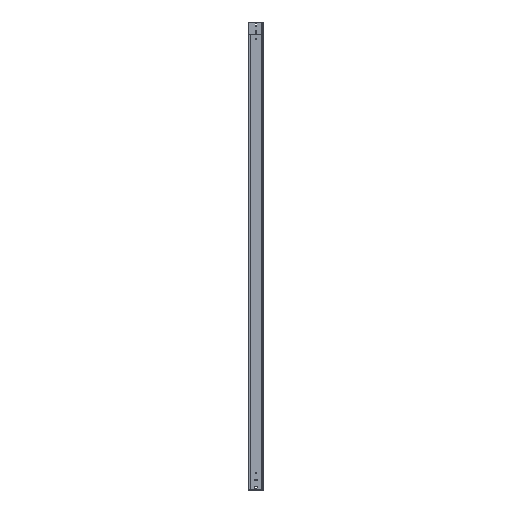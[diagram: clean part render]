
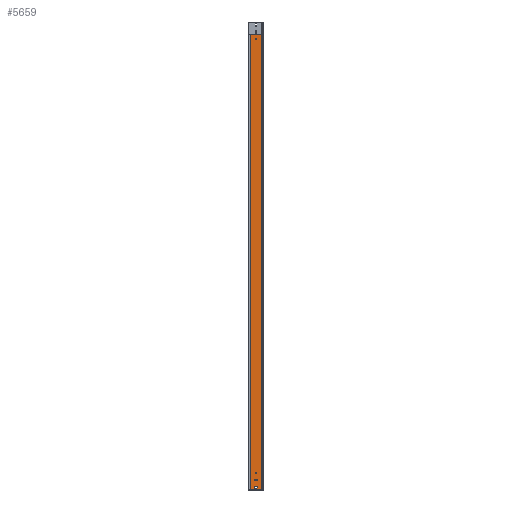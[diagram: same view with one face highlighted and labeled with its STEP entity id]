
A CAD part, left-side view. The second image highlights one B-rep face of the part: STEP entity #5659.
In plain terms, the highlighted planar face has unit normal (-1, 0, 0).
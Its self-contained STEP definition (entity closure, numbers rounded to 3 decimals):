
#16 = EDGE_LOOP ( 'NONE', ( #5150, #5496 ) ) ;
#128 = CARTESIAN_POINT ( 'NONE',  ( 0., 54., 2857. ) ) ;
#167 = DIRECTION ( 'NONE',  ( 0., 0., 1. ) ) ;
#287 = AXIS2_PLACEMENT_3D ( 'NONE', #3341, #6695, #4813 ) ;
#404 = CARTESIAN_POINT ( 'NONE',  ( 0., 64., 0. ) ) ;
#442 = CARTESIAN_POINT ( 'NONE',  ( 0., 7.555, 0. ) ) ;
#518 = VERTEX_POINT ( 'NONE', #1847 ) ;
#561 = VECTOR ( 'NONE', #7122, 1000. ) ;
#568 = CARTESIAN_POINT ( 'NONE',  ( 0., 0.5, 0. ) ) ;
#597 = LINE ( 'NONE', #1665, #561 ) ;
#747 = DIRECTION ( 'NONE',  ( 0., 1., 0. ) ) ;
#813 = FACE_BOUND ( 'NONE', #1822, .T. ) ;
#940 = ORIENTED_EDGE ( 'NONE', *, *, #2950, .F. ) ;
#1000 = VERTEX_POINT ( 'NONE', #5728 ) ;
#1124 = DIRECTION ( 'NONE',  ( 0., 0., -1. ) ) ;
#1238 = ORIENTED_EDGE ( 'NONE', *, *, #7709, .F. ) ;
#1288 = EDGE_CURVE ( 'NONE', #6171, #3214, #5157, .T. ) ;
#1311 = CARTESIAN_POINT ( 'NONE',  ( 0., 48.5, 34.5 ) ) ;
#1319 = CIRCLE ( 'NONE', #6129, 4.5 ) ;
#1489 = FACE_BOUND ( 'NONE', #8136, .T. ) ;
#1490 = CIRCLE ( 'NONE', #7940, 4.5 ) ;
#1589 = CARTESIAN_POINT ( 'NONE',  ( 0., 48.5, 25.5 ) ) ;
#1608 = EDGE_CURVE ( 'NONE', #8118, #6408, #5695, .T. ) ;
#1626 = ORIENTED_EDGE ( 'NONE', *, *, #2258, .F. ) ;
#1649 = DIRECTION ( 'NONE',  ( 0., 0., 1. ) ) ;
#1665 = CARTESIAN_POINT ( 'NONE',  ( 0., 54., 2861.5 ) ) ;
#1760 = DIRECTION ( 'NONE',  ( -1., 0., 0. ) ) ;
#1822 = EDGE_LOOP ( 'NONE', ( #3386, #5687 ) ) ;
#1847 = CARTESIAN_POINT ( 'NONE',  ( 0., 54., 2861.5 ) ) ;
#1870 = VERTEX_POINT ( 'NONE', #7285 ) ;
#1875 = EDGE_CURVE ( 'NONE', #3250, #6045, #2669, .T. ) ;
#1884 = ORIENTED_EDGE ( 'NONE', *, *, #8405, .F. ) ;
#2027 = DIRECTION ( 'NONE',  ( 0., 0., -1. ) ) ;
#2038 = DIRECTION ( 'NONE',  ( -1., 0., 0. ) ) ;
#2196 = VERTEX_POINT ( 'NONE', #1589 ) ;
#2199 = CIRCLE ( 'NONE', #7010, 4.5 ) ;
#2258 = EDGE_CURVE ( 'NONE', #3561, #6045, #7872, .T. ) ;
#2278 = CARTESIAN_POINT ( 'NONE',  ( 0., 78.111, 0. ) ) ;
#2311 = ORIENTED_EDGE ( 'NONE', *, *, #3050, .F. ) ;
#2362 = ORIENTED_EDGE ( 'NONE', *, *, #4748, .F. ) ;
#2449 = DIRECTION ( 'NONE',  ( -1., 0., 0. ) ) ;
#2545 = VECTOR ( 'NONE', #7255, 1000. ) ;
#2669 = LINE ( 'NONE', #3842, #8031 ) ;
#2700 = DIRECTION ( 'NONE',  ( 0., -1., 0. ) ) ;
#2733 = DIRECTION ( 'NONE',  ( -1., 0., 0. ) ) ;
#2760 = DIRECTION ( 'NONE',  ( 0., 0., -1. ) ) ;
#2811 = FACE_BOUND ( 'NONE', #5099, .T. ) ;
#2817 = CIRCLE ( 'NONE', #5585, 4.5 ) ;
#2833 = CARTESIAN_POINT ( 'NONE',  ( 0., 85.166, 2920. ) ) ;
#2935 = EDGE_CURVE ( 'NONE', #2196, #6107, #2817, .T. ) ;
#2950 = EDGE_CURVE ( 'NONE', #518, #4281, #1319, .T. ) ;
#2966 = VECTOR ( 'NONE', #2760, 1000. ) ;
#2996 = CARTESIAN_POINT ( 'NONE',  ( 0., 43., 2857. ) ) ;
#3010 = CARTESIAN_POINT ( 'NONE',  ( 0., 21.666, 0. ) ) ;
#3025 = DIRECTION ( 'NONE',  ( -1., 0., 0. ) ) ;
#3050 = EDGE_CURVE ( 'NONE', #6706, #7487, #4485, .T. ) ;
#3171 = EDGE_LOOP ( 'NONE', ( #1626, #1238, #6906, #5192 ) ) ;
#3214 = VERTEX_POINT ( 'NONE', #5947 ) ;
#3250 = VERTEX_POINT ( 'NONE', #2833 ) ;
#3341 = CARTESIAN_POINT ( 'NONE',  ( 0., 0., 2920. ) ) ;
#3385 = FACE_BOUND ( 'NONE', #16, .T. ) ;
#3386 = ORIENTED_EDGE ( 'NONE', *, *, #2935, .F. ) ;
#3561 = VERTEX_POINT ( 'NONE', #568 ) ;
#3782 = AXIS2_PLACEMENT_3D ( 'NONE', #4442, #2449, #1124 ) ;
#3789 = DIRECTION ( 'NONE',  ( 0., 0., 1. ) ) ;
#3842 = CARTESIAN_POINT ( 'NONE',  ( 0., 85.166, 2920. ) ) ;
#3944 = CARTESIAN_POINT ( 'NONE',  ( 0., 54., 2852.5 ) ) ;
#4078 = PLANE ( 'NONE',  #287 ) ;
#4181 = AXIS2_PLACEMENT_3D ( 'NONE', #5413, #6217, #167 ) ;
#4206 = AXIS2_PLACEMENT_3D ( 'NONE', #6374, #7103, #7147 ) ;
#4281 = VERTEX_POINT ( 'NONE', #3944 ) ;
#4361 = CARTESIAN_POINT ( 'NONE',  ( 0., 42.832, 0. ) ) ;
#4377 = CARTESIAN_POINT ( 'NONE',  ( 0., 85.166, 0. ) ) ;
#4442 = CARTESIAN_POINT ( 'NONE',  ( 0., 54., 2903. ) ) ;
#4470 = VECTOR ( 'NONE', #2700, 1000. ) ;
#4485 = CIRCLE ( 'NONE', #3782, 4.5 ) ;
#4583 = DIRECTION ( 'NONE',  ( 0., 1., 0. ) ) ;
#4716 = CARTESIAN_POINT ( 'NONE',  ( 0., 54., 2907.5 ) ) ;
#4722 = DIRECTION ( 'NONE',  ( 0., 0., -1. ) ) ;
#4728 = LINE ( 'NONE', #6698, #4470 ) ;
#4748 = EDGE_CURVE ( 'NONE', #1000, #6706, #6001, .T. ) ;
#4813 = DIRECTION ( 'NONE',  ( 0., 0., 1. ) ) ;
#4862 = DIRECTION ( 'NONE',  ( 0., 0., 1. ) ) ;
#4992 = CARTESIAN_POINT ( 'NONE',  ( 0., 0.5, 2920. ) ) ;
#5099 = EDGE_LOOP ( 'NONE', ( #940, #8243, #5977, #1884 ) ) ;
#5150 = ORIENTED_EDGE ( 'NONE', *, *, #1608, .F. ) ;
#5157 = CIRCLE ( 'NONE', #6249, 4.5 ) ;
#5192 = ORIENTED_EDGE ( 'NONE', *, *, #1875, .T. ) ;
#5413 = CARTESIAN_POINT ( 'NONE',  ( 0., 48.5, 2810. ) ) ;
#5436 = CARTESIAN_POINT ( 'NONE',  ( 0., 0.5, 2920. ) ) ;
#5496 = ORIENTED_EDGE ( 'NONE', *, *, #7507, .F. ) ;
#5501 = CARTESIAN_POINT ( 'NONE',  ( 0., 48.5, 30. ) ) ;
#5546 = EDGE_CURVE ( 'NONE', #3214, #518, #597, .T. ) ;
#5552 = VERTEX_POINT ( 'NONE', #4992 ) ;
#5585 = AXIS2_PLACEMENT_3D ( 'NONE', #7376, #2038, #6570 ) ;
#5659 = ADVANCED_FACE ( 'NONE', ( #813, #3385, #2811, #1489, #7887 ), #4078, .T. ) ;
#5687 = ORIENTED_EDGE ( 'NONE', *, *, #5861, .F. ) ;
#5695 = CIRCLE ( 'NONE', #4181, 4.5 ) ;
#5728 = CARTESIAN_POINT ( 'NONE',  ( 0., 43., 2907.5 ) ) ;
#5820 = ORIENTED_EDGE ( 'NONE', *, *, #6540, .F. ) ;
#5861 = EDGE_CURVE ( 'NONE', #6107, #2196, #2199, .T. ) ;
#5894 = LINE ( 'NONE', #6617, #2545 ) ;
#5896 = VECTOR ( 'NONE', #747, 1000. ) ;
#5947 = CARTESIAN_POINT ( 'NONE',  ( 0., 43., 2861.5 ) ) ;
#5977 = ORIENTED_EDGE ( 'NONE', *, *, #1288, .F. ) ;
#6001 = LINE ( 'NONE', #4716, #6850 ) ;
#6045 = VERTEX_POINT ( 'NONE', #4377 ) ;
#6076 = LINE ( 'NONE', #5436, #2966 ) ;
#6107 = VERTEX_POINT ( 'NONE', #1311 ) ;
#6129 = AXIS2_PLACEMENT_3D ( 'NONE', #128, #2733, #4722 ) ;
#6171 = VERTEX_POINT ( 'NONE', #7243 ) ;
#6217 = DIRECTION ( 'NONE',  ( -1., 0., 0. ) ) ;
#6249 = AXIS2_PLACEMENT_3D ( 'NONE', #2996, #6780, #4862 ) ;
#6328 = CARTESIAN_POINT ( 'NONE',  ( 0., 0.5, 0. ) ) ;
#6374 = CARTESIAN_POINT ( 'NONE',  ( 0., 48.5, 2810. ) ) ;
#6408 = VERTEX_POINT ( 'NONE', #8131 ) ;
#6540 = EDGE_CURVE ( 'NONE', #1870, #1000, #1490, .T. ) ;
#6570 = DIRECTION ( 'NONE',  ( 0., 0., 1. ) ) ;
#6617 = CARTESIAN_POINT ( 'NONE',  ( 0., 54., 2898.5 ) ) ;
#6634 = LINE ( 'NONE', #8003, #5896 ) ;
#6644 = EDGE_CURVE ( 'NONE', #5552, #3250, #6634, .T. ) ;
#6695 = DIRECTION ( 'NONE',  ( -1., 0., 0. ) ) ;
#6698 = CARTESIAN_POINT ( 'NONE',  ( 0., 54., 2852.5 ) ) ;
#6706 = VERTEX_POINT ( 'NONE', #7186 ) ;
#6780 = DIRECTION ( 'NONE',  ( -1., 0., 0. ) ) ;
#6850 = VECTOR ( 'NONE', #4583, 1000. ) ;
#6906 = ORIENTED_EDGE ( 'NONE', *, *, #6644, .T. ) ;
#7010 = AXIS2_PLACEMENT_3D ( 'NONE', #5501, #3025, #1649 ) ;
#7020 = CARTESIAN_POINT ( 'NONE',  ( 0., 54., 2898.5 ) ) ;
#7103 = DIRECTION ( 'NONE',  ( -1., 0., 0. ) ) ;
#7122 = DIRECTION ( 'NONE',  ( 0., 1., 0. ) ) ;
#7147 = DIRECTION ( 'NONE',  ( 0., 0., 1. ) ) ;
#7159 = EDGE_CURVE ( 'NONE', #7487, #1870, #5894, .T. ) ;
#7183 = ORIENTED_EDGE ( 'NONE', *, *, #7159, .F. ) ;
#7186 = CARTESIAN_POINT ( 'NONE',  ( 0., 54., 2907.5 ) ) ;
#7243 = CARTESIAN_POINT ( 'NONE',  ( 0., 43., 2852.5 ) ) ;
#7255 = DIRECTION ( 'NONE',  ( 0., -1., 0. ) ) ;
#7285 = CARTESIAN_POINT ( 'NONE',  ( 0., 43., 2898.5 ) ) ;
#7376 = CARTESIAN_POINT ( 'NONE',  ( 0., 48.5, 30. ) ) ;
#7487 = VERTEX_POINT ( 'NONE', #7020 ) ;
#7507 = EDGE_CURVE ( 'NONE', #6408, #8118, #7908, .T. ) ;
#7587 = CARTESIAN_POINT ( 'NONE',  ( 0., 48.5, 2814.5 ) ) ;
#7658 = CARTESIAN_POINT ( 'NONE',  ( 0., 43., 2903. ) ) ;
#7709 = EDGE_CURVE ( 'NONE', #5552, #3561, #6076, .T. ) ;
#7872 = B_SPLINE_CURVE_WITH_KNOTS ( 'NONE', 3,
 ( #6328, #442, #3010, #4361, #404, #2278, #8253 ),
 .UNSPECIFIED., .F., .F.,
 ( 4, 1, 1, 1, 4 ),
 ( 0., 0.25, 0.5, 0.75, 1. ),
 .UNSPECIFIED. ) ;
#7887 = FACE_OUTER_BOUND ( 'NONE', #3171, .T. ) ;
#7908 = CIRCLE ( 'NONE', #4206, 4.5 ) ;
#7940 = AXIS2_PLACEMENT_3D ( 'NONE', #7658, #1760, #3789 ) ;
#8003 = CARTESIAN_POINT ( 'NONE',  ( 0., 0., 2920. ) ) ;
#8031 = VECTOR ( 'NONE', #2027, 1000. ) ;
#8118 = VERTEX_POINT ( 'NONE', #7587 ) ;
#8131 = CARTESIAN_POINT ( 'NONE',  ( 0., 48.5, 2805.5 ) ) ;
#8136 = EDGE_LOOP ( 'NONE', ( #2311, #2362, #5820, #7183 ) ) ;
#8243 = ORIENTED_EDGE ( 'NONE', *, *, #5546, .F. ) ;
#8253 = CARTESIAN_POINT ( 'NONE',  ( 0., 85.166, 0. ) ) ;
#8405 = EDGE_CURVE ( 'NONE', #4281, #6171, #4728, .T. ) ;
